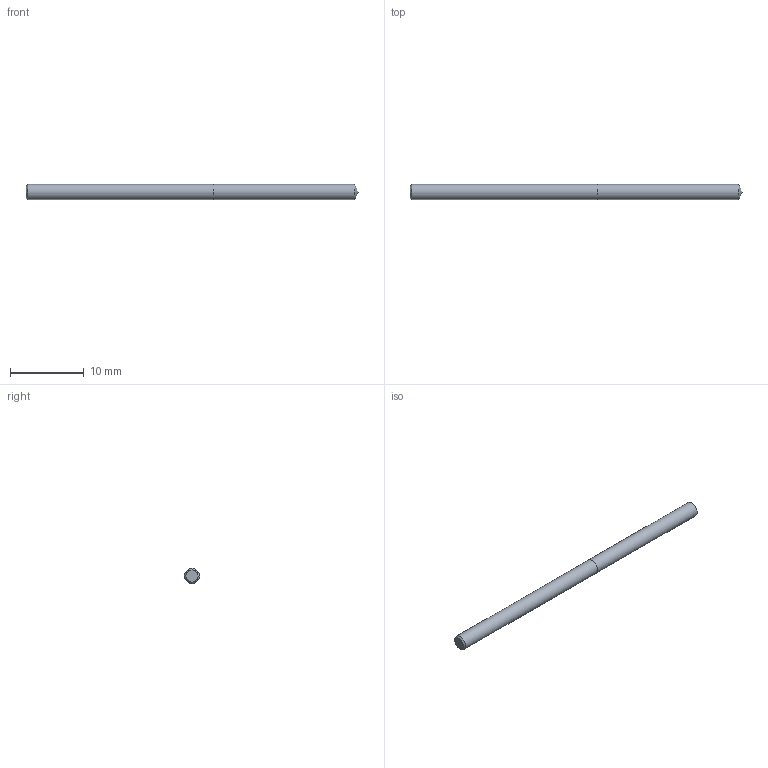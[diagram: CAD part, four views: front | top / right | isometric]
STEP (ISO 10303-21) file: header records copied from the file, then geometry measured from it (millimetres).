
FILE_DESCRIPTION (( 'STEP AP214' ), '1' );
FILE_NAME ('03-2388.STEP', '2022-06-03T07:06:01', ( 'USER' ), ( '' ), 'SwSTEP 2.0', 'SolidWorks 2018', '' );
FILE_SCHEMA (( 'AUTOMOTIVE_DESIGN' ));
Length unit declared in the file: inch
Products named in the file (1): 03-2388
Bounding box: 44.88 x 2.06 x 2.06 mm (x, y, z)
Volume: 148.1 mm3; surface area: 300 mm2
Topology: 2 solids, 2 shells, 7 faces, 11 edges, 7 vertices
Faces by surface type: plane 3, cylinder 2, cone 2
Full cylindrical faces by diameter (mm): 2.057 x2
Entity records: 214 total; most frequent: DIRECTION 26, CARTESIAN_POINT 18, AXIS2_PLACEMENT_3D 13, EDGE_LOOP 10, ORIENTED_EDGE 10, FACE_OUTER_BOUND 9, DIMENSIONAL_EXPONENTS 7, LENGTH_MEASURE_WITH_UNIT 7
